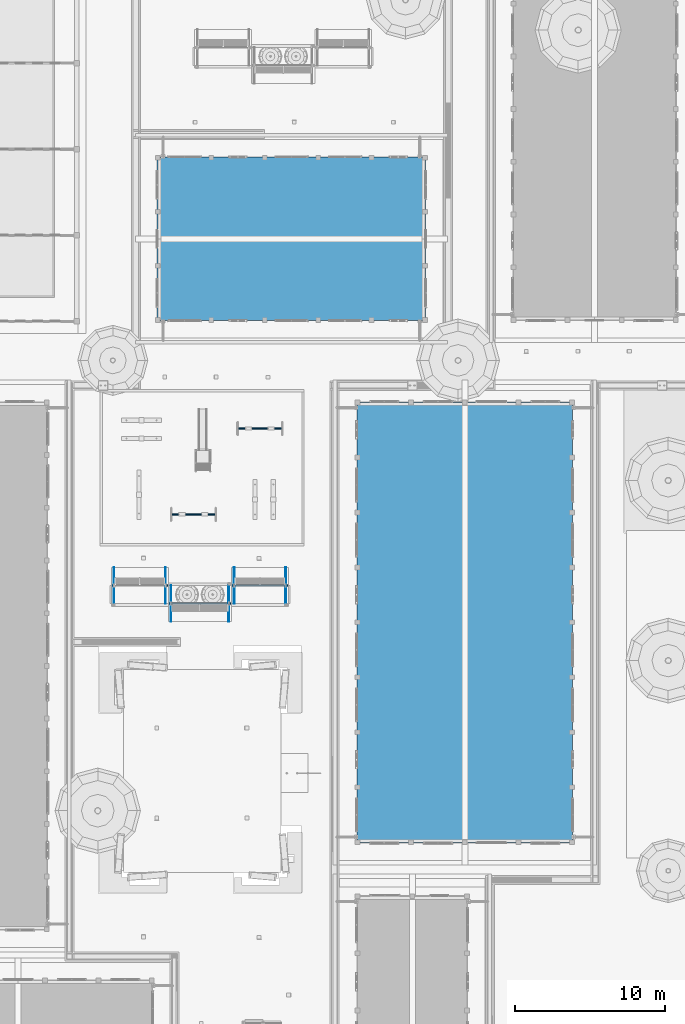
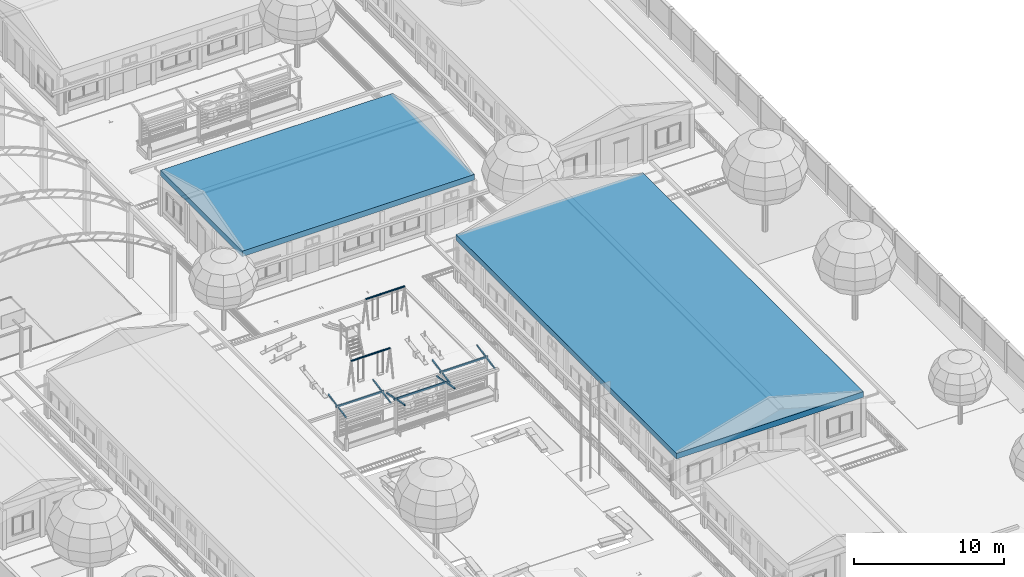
# One storey, part 18 of 166: 13 beams.
"""IFC2X3 building model written with IfcOpenShell, lengths in metres."""

from ifc_helpers import new_model, si_unit, origin, origin_with_axes, place, context, subcontext, project, spatial, faceted_brep, element, save


model = new_model("IFC2X3")

# Units and contexts
model_context = context("Model", 3, precision=1e-05, world=origin_with_axes())
body_context = subcontext(model_context, "Body", "Model", "MODEL_VIEW")
ifc_project = project(units=[si_unit("LENGTHUNIT", "METRE"), si_unit("AREAUNIT", "SQUARE_METRE"), si_unit("VOLUMEUNIT", "CUBIC_METRE"), si_unit("PLANEANGLEUNIT", "RADIAN")], contexts=[model_context])

# Site, building, storey
site_placement = place(None, origin_with_axes())
site = spatial("IfcSite", under=ifc_project, at=site_placement, Name="Predio Los Mangos - Morales, San Martín", CompositionType="ELEMENT")
building_placement = place(site_placement, origin())
building = spatial("IfcBuilding", under=site, at=building_placement, Name="Hogar de Refugio Temporal", CompositionType="ELEMENT")
storey_placement = place(building_placement, origin())
storey = spatial("IfcBuildingStorey", under=building, at=storey_placement, Name="NIVEL 1 (NPT +0.00)", CompositionType="ELEMENT", Elevation=0.0)

# Beams
beam_1_placement = place(storey_placement, origin())
element("IfcBeam", 1, at=beam_1_placement, inside=storey, Name="E-05_viga", ObjectType="Viga", context=body_context, shape_type="Brep", body=[
    faceted_brep([(45.26, 57.86, 3.3), (45.26, 87.24, 3.3), (59.64, 87.24, 3.3), (59.64, 57.86, 3.3), (45.26, 57.86, 3.75), (59.64, 57.86, 3.75), (59.64, 87.24, 3.75), (45.26, 87.24, 3.75)], [[[0, 1, 2, 3]], [[4, 5, 6, 7]], [[0, 3, 5, 4]], [[3, 2, 6, 5]], [[2, 1, 7, 6]], [[1, 0, 4, 7]]]),
])
beam_2_placement = place(storey_placement, origin())
element("IfcBeam", 2, at=beam_2_placement, inside=storey, Name="E-06_viga", ObjectType="Viga", context=body_context, shape_type="Brep", body=[
    faceted_brep([(31.96, 92.66, 3.3), (31.96, 103.54, 3.3), (49.84, 103.54, 3.3), (49.84, 92.66, 3.3), (31.96, 92.66, 3.75), (49.84, 92.66, 3.75), (49.84, 103.54, 3.75), (31.96, 103.54, 3.75)], [[[0, 1, 2, 3]], [[4, 5, 6, 7]], [[0, 3, 5, 4]], [[3, 2, 6, 5]], [[2, 1, 7, 6]], [[1, 0, 4, 7]]]),
])
beam_3_placement = place(storey_placement, origin())
element("IfcBeam", 3, at=beam_3_placement, inside=storey, Name="columpio_viga", ObjectType="Viga", context=body_context, shape_type="Brep", body=[
    faceted_brep([(32.885, 79.744, 2.4), (35.86, 79.744, 2.4), (35.86, 79.769, 2.3933), (32.885, 79.769, 2.3933), (35.86, 79.7873, 2.375), (32.885, 79.7873, 2.375), (35.86, 79.794, 2.35), (32.885, 79.794, 2.35), (35.86, 79.7873, 2.325), (32.885, 79.7873, 2.325), (35.86, 79.769, 2.3067), (32.885, 79.769, 2.3067), (35.86, 79.744, 2.3), (32.885, 79.744, 2.3), (35.86, 79.719, 2.3067), (32.885, 79.719, 2.3067), (35.86, 79.7007, 2.325), (32.885, 79.7007, 2.325), (35.86, 79.694, 2.35), (32.885, 79.694, 2.35), (35.86, 79.7007, 2.375), (32.885, 79.7007, 2.375), (35.86, 79.719, 2.3933), (32.885, 79.719, 2.3933)], [[[0, 1, 2, 3]], [[3, 2, 4, 5]], [[5, 4, 6, 7]], [[7, 6, 8, 9]], [[9, 8, 10, 11]], [[11, 10, 12, 13]], [[13, 12, 14, 15]], [[15, 14, 16, 17]], [[17, 16, 18, 19]], [[19, 18, 20, 21]], [[2, 1, 22, 20, 18, 16, 14, 12, 10, 8, 6, 4]], [[21, 20, 22, 23]], [[23, 22, 1, 0]], [[0, 3, 5, 7, 9, 11, 13, 15, 17, 19, 21, 23]]]),
])
beam_4_placement = place(storey_placement, origin())
element("IfcBeam", 4, at=beam_4_placement, inside=storey, Name="columpio_viga", ObjectType="Viga", context=body_context, shape_type="Brep", body=[
    faceted_brep([(37.31, 85.469, 2.4), (40.285, 85.469, 2.4), (40.285, 85.494, 2.3933), (37.31, 85.494, 2.3933), (40.285, 85.5123, 2.375), (37.31, 85.5123, 2.375), (40.285, 85.519, 2.35), (37.31, 85.519, 2.35), (40.285, 85.5123, 2.325), (37.31, 85.5123, 2.325), (40.285, 85.494, 2.3067), (37.31, 85.494, 2.3067), (40.285, 85.469, 2.3), (37.31, 85.469, 2.3), (40.285, 85.444, 2.3067), (37.31, 85.444, 2.3067), (40.285, 85.4257, 2.325), (37.31, 85.4257, 2.325), (40.285, 85.419, 2.35), (37.31, 85.419, 2.35), (40.285, 85.4257, 2.375), (37.31, 85.4257, 2.375), (40.285, 85.444, 2.3933), (37.31, 85.444, 2.3933)], [[[0, 1, 2, 3]], [[3, 2, 4, 5]], [[5, 4, 6, 7]], [[7, 6, 8, 9]], [[9, 8, 10, 11]], [[11, 10, 12, 13]], [[13, 12, 14, 15]], [[15, 14, 16, 17]], [[17, 16, 18, 19]], [[19, 18, 20, 21]], [[2, 1, 22, 20, 18, 16, 14, 12, 10, 8, 6, 4]], [[21, 20, 22, 23]], [[23, 22, 1, 0]], [[0, 3, 5, 7, 9, 11, 13, 15, 17, 19, 21, 23]]]),
])
beam_5_placement = place(storey_placement, origin())
element("IfcBeam", 5, at=beam_5_placement, inside=storey, Name="oc01_viga", ObjectType="Viga", context=body_context, shape_type="Brep", body=[
    faceted_brep([(40.645, 75.05, 2.81), (40.645, 74.95, 2.81), (36.955, 74.95, 2.81), (36.955, 75.05, 2.81), (40.645, 75.05, 2.93), (36.955, 75.05, 2.93), (36.955, 74.95, 2.93), (40.645, 74.95, 2.93)], [[[0, 1, 2, 3]], [[4, 5, 6, 7]], [[0, 3, 5, 4]], [[3, 2, 6, 5]], [[2, 1, 7, 6]], [[1, 0, 4, 7]]]),
])
beam_6_placement = place(storey_placement, origin())
element("IfcBeam", 6, at=beam_6_placement, inside=storey, Name="oc01_correa", ObjectType="Viga", context=body_context, shape_type="Brep", body=[
    faceted_brep([(40.54, 73.8094, 2.5909), (40.49, 73.8094, 2.5909), (40.49, 76.2094, 3.0509), (40.54, 76.2094, 3.0509), (40.54, 73.7906, 2.6891), (40.54, 76.1906, 3.1491), (40.49, 76.1906, 3.1491), (40.49, 73.7906, 2.6891)], [[[0, 1, 2, 3]], [[4, 5, 6, 7]], [[0, 3, 5, 4]], [[3, 2, 6, 5]], [[2, 1, 7, 6]], [[1, 0, 4, 7]]]),
])
beam_7_placement = place(storey_placement, origin())
element("IfcBeam", 7, at=beam_7_placement, inside=storey, Name="oc01_correa", ObjectType="Viga", context=body_context, shape_type="Brep", body=[
    faceted_brep([(37.11, 73.8094, 2.5909), (37.06, 73.8094, 2.5909), (37.06, 76.2094, 3.0509), (37.11, 76.2094, 3.0509), (37.11, 73.7906, 2.6891), (37.11, 76.1906, 3.1491), (37.06, 76.1906, 3.1491), (37.06, 73.7906, 2.6891)], [[[0, 1, 2, 3]], [[4, 5, 6, 7]], [[0, 3, 5, 4]], [[3, 2, 6, 5]], [[2, 1, 7, 6]], [[1, 0, 4, 7]]]),
])
beam_8_placement = place(storey_placement, origin())
element("IfcBeam", 8, at=beam_8_placement, inside=storey, Name="oc01_viga", ObjectType="Viga", context=body_context, shape_type="Brep", body=[
    faceted_brep([(36.855, 73.85, 2.81), (36.855, 73.75, 2.81), (32.745, 73.75, 2.81), (32.745, 73.85, 2.81), (36.855, 73.85, 2.93), (32.745, 73.85, 2.93), (32.745, 73.75, 2.93), (36.855, 73.75, 2.93)], [[[0, 1, 2, 3]], [[4, 5, 6, 7]], [[0, 3, 5, 4]], [[3, 2, 6, 5]], [[2, 1, 7, 6]], [[1, 0, 4, 7]]]),
])
beam_9_placement = place(storey_placement, origin())
element("IfcBeam", 9, at=beam_9_placement, inside=storey, Name="oc01_correa", ObjectType="Viga", context=body_context, shape_type="Brep", body=[
    faceted_brep([(36.7, 74.9906, 2.5909), (36.75, 74.9906, 2.5909), (36.75, 72.5906, 3.0509), (36.7, 72.5906, 3.0509), (36.7, 75.0094, 2.6891), (36.7, 72.6094, 3.1491), (36.75, 72.6094, 3.1491), (36.75, 75.0094, 2.6891)], [[[0, 1, 2, 3]], [[4, 5, 6, 7]], [[0, 3, 5, 4]], [[3, 2, 6, 5]], [[2, 1, 7, 6]], [[1, 0, 4, 7]]]),
])
beam_10_placement = place(storey_placement, origin())
element("IfcBeam", 10, at=beam_10_placement, inside=storey, Name="oc01_correa", ObjectType="Viga", context=body_context, shape_type="Brep", body=[
    faceted_brep([(32.85, 74.9906, 2.5909), (32.9, 74.9906, 2.5909), (32.9, 72.5906, 3.0509), (32.85, 72.5906, 3.0509), (32.85, 75.0094, 2.6891), (32.85, 72.6094, 3.1491), (32.9, 72.6094, 3.1491), (32.9, 75.0094, 2.6891)], [[[0, 1, 2, 3]], [[4, 5, 6, 7]], [[0, 3, 5, 4]], [[3, 2, 6, 5]], [[2, 1, 7, 6]], [[1, 0, 4, 7]]]),
])
beam_11_placement = place(storey_placement, origin())
element("IfcBeam", 11, at=beam_11_placement, inside=storey, Name="oc01_viga", ObjectType="Viga", context=body_context, shape_type="Brep", body=[
    faceted_brep([(32.645, 75.05, 2.81), (32.645, 74.95, 2.81), (28.955, 74.95, 2.81), (28.955, 75.05, 2.81), (32.645, 75.05, 2.93), (28.955, 75.05, 2.93), (28.955, 74.95, 2.93), (32.645, 74.95, 2.93)], [[[0, 1, 2, 3]], [[4, 5, 6, 7]], [[0, 3, 5, 4]], [[3, 2, 6, 5]], [[2, 1, 7, 6]], [[1, 0, 4, 7]]]),
])
beam_12_placement = place(storey_placement, origin())
element("IfcBeam", 12, at=beam_12_placement, inside=storey, Name="oc01_correa", ObjectType="Viga", context=body_context, shape_type="Brep", body=[
    faceted_brep([(32.54, 73.8094, 2.5909), (32.49, 73.8094, 2.5909), (32.49, 76.2094, 3.0509), (32.54, 76.2094, 3.0509), (32.54, 73.7906, 2.6891), (32.54, 76.1906, 3.1491), (32.49, 76.1906, 3.1491), (32.49, 73.7906, 2.6891)], [[[0, 1, 2, 3]], [[4, 5, 6, 7]], [[0, 3, 5, 4]], [[3, 2, 6, 5]], [[2, 1, 7, 6]], [[1, 0, 4, 7]]]),
])
beam_13_placement = place(storey_placement, origin())
element("IfcBeam", 13, at=beam_13_placement, inside=storey, Name="oc01_correa", ObjectType="Viga", context=body_context, shape_type="Brep", body=[
    faceted_brep([(29.11, 73.8094, 2.5909), (29.06, 73.8094, 2.5909), (29.06, 76.2094, 3.0509), (29.11, 76.2094, 3.0509), (29.11, 73.7906, 2.6891), (29.11, 76.1906, 3.1491), (29.06, 76.1906, 3.1491), (29.06, 73.7906, 2.6891)], [[[0, 1, 2, 3]], [[4, 5, 6, 7]], [[0, 3, 5, 4]], [[3, 2, 6, 5]], [[2, 1, 7, 6]], [[1, 0, 4, 7]]]),
])

save(model, "model.ifc")
